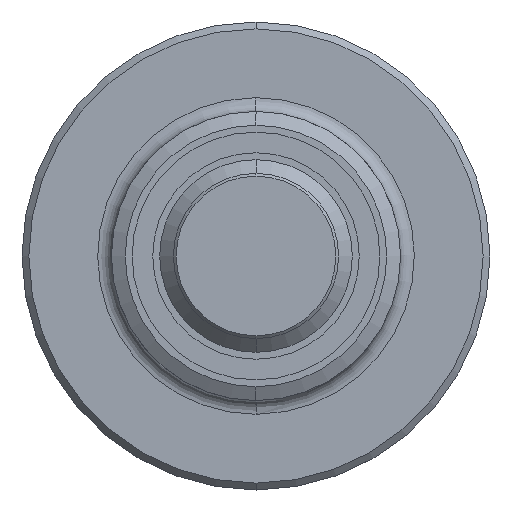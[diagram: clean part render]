
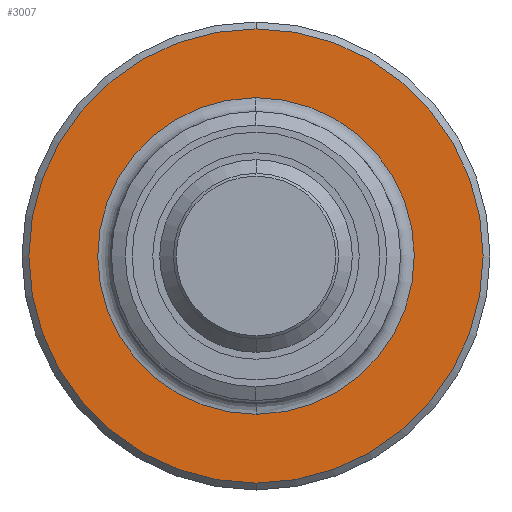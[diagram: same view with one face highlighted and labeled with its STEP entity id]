
A CAD part, left-side view. The second image highlights one B-rep face of the part: STEP entity #3007.
In plain terms, the highlighted planar face has unit normal (-1, 0, 0).
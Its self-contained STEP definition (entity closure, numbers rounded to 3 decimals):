
#800=CARTESIAN_POINT('',(-4.,0.,0.));
#801=DIRECTION('',(1.,0.,0.));
#802=DIRECTION('',(0.,0.,1.));
#803=AXIS2_PLACEMENT_3D('',#800,#801,#802);
#805=CARTESIAN_POINT('',(-4.,0.,0.));
#806=DIRECTION('',(1.,0.,0.));
#807=DIRECTION('',(0.,0.,-1.));
#808=AXIS2_PLACEMENT_3D('',#805,#806,#807);
#810=CARTESIAN_POINT('',(-4.,0.,0.));
#811=DIRECTION('',(-1.,0.,0.));
#812=DIRECTION('',(0.,0.,1.));
#813=AXIS2_PLACEMENT_3D('',#810,#811,#812);
#815=CARTESIAN_POINT('',(-4.,0.,0.));
#816=DIRECTION('',(-1.,0.,0.));
#817=DIRECTION('',(0.,0.011,1.));
#818=AXIS2_PLACEMENT_3D('',#815,#816,#817);
#820=CARTESIAN_POINT('',(-4.,0.,0.));
#821=DIRECTION('',(-1.,0.,0.));
#822=DIRECTION('',(0.,0.,-1.));
#823=AXIS2_PLACEMENT_3D('',#820,#821,#822);
#825=CARTESIAN_POINT('',(-4.,0.,0.));
#826=DIRECTION('',(-1.,0.,0.));
#827=DIRECTION('',(0.,-0.011,-1.));
#828=AXIS2_PLACEMENT_3D('',#825,#826,#827);
#1795=CARTESIAN_POINT('',(-4.,0.,
-16.499));
#1796=CARTESIAN_POINT('',(-4.,0.,
16.499));
#1797=VERTEX_POINT('',#1795);
#1798=VERTEX_POINT('',#1796);
#1799=CARTESIAN_POINT('',(-4.,0.126,11.499));
#1800=CARTESIAN_POINT('',(-4.,0.,-11.5));
#1801=VERTEX_POINT('',#1799);
#1802=VERTEX_POINT('',#1800);
#1803=CARTESIAN_POINT('',(-4.,0.,11.5));
#1804=VERTEX_POINT('',#1803);
#1805=CARTESIAN_POINT('',(-4.,-0.126,-11.499));
#1806=VERTEX_POINT('',#1805);
#2987=CARTESIAN_POINT('',(-4.,0.,0.));
#2988=DIRECTION('',(1.,0.,0.));
#2989=DIRECTION('',(0.,0.,1.));
#2990=AXIS2_PLACEMENT_3D('',#2987,#2988,#2989);
#2991=PLANE('',#2990);
#2993=ORIENTED_EDGE('',*,*,#2992,.T.);
#2994=ORIENTED_EDGE('',*,*,#2977,.T.);
#2995=EDGE_LOOP('',(#2993,#2994));
#2996=FACE_OUTER_BOUND('',#2995,.F.);
#2998=ORIENTED_EDGE('',*,*,#2997,.T.);
#3000=ORIENTED_EDGE('',*,*,#2999,.T.);
#3002=ORIENTED_EDGE('',*,*,#3001,.T.);
#3004=ORIENTED_EDGE('',*,*,#3003,.T.);
#3005=EDGE_LOOP('',(#2998,#3000,#3002,#3004));
#3006=FACE_BOUND('',#3005,.F.);
#3007=ADVANCED_FACE('',(#2996,#3006),#2991,.F.);
#804=CIRCLE('',#803,16.499);
#809=CIRCLE('',#808,16.499);
#814=CIRCLE('',#813,11.5);
#819=CIRCLE('',#818,11.5);
#824=CIRCLE('',#823,11.5);
#829=CIRCLE('',#828,11.5);
#2977=EDGE_CURVE('',#1797,#1798,#809,.T.);
#2992=EDGE_CURVE('',#1798,#1797,#804,.T.);
#2997=EDGE_CURVE('',#1804,#1801,#814,.T.);
#2999=EDGE_CURVE('',#1801,#1802,#819,.T.);
#3001=EDGE_CURVE('',#1802,#1806,#824,.T.);
#3003=EDGE_CURVE('',#1806,#1804,#829,.T.);
